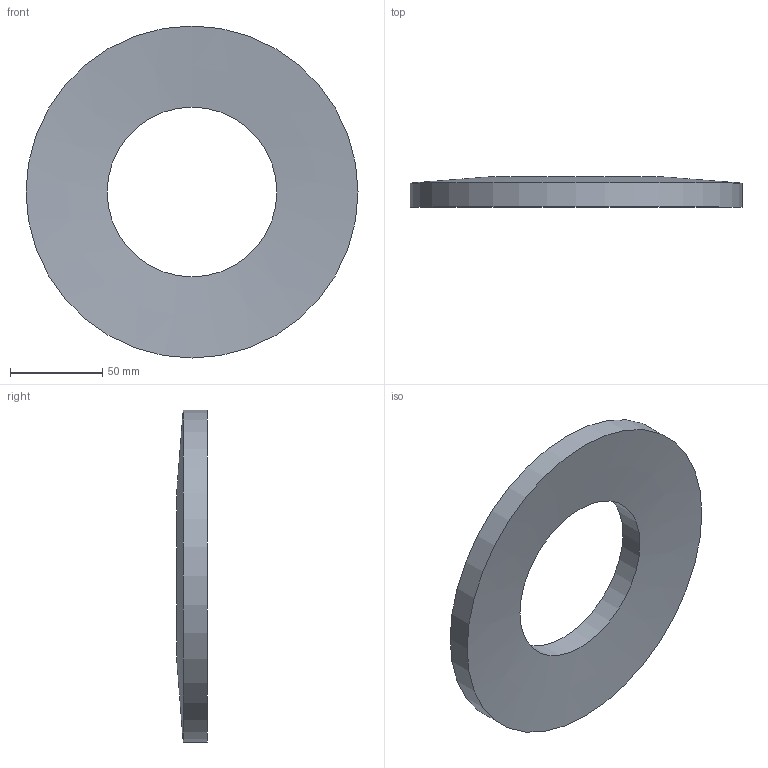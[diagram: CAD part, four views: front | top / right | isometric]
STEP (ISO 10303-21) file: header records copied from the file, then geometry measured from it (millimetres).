
FILE_DESCRIPTION(/* description */ ('237762N'),/* implementation_level */ '2;1');
FILE_NAME(/* name */ 'ST.1800.0920.1300.step',/* time_stamp */ '2026-09-18T10:36:00+02:00',/* author */ ('impex-ready.pl'),/* organization */ ('ST.1800.0920.1300'),/* preprocessor_version */ 'ST-DEVELOPER v20.1',/* originating_system */ 'Autodesk Inventor 2026',/* authorisation */ 'Ugiecie 0,75 h0 = 2.63');
FILE_SCHEMA (('AUTOMOTIVE_DESIGN { 1 0 10303 214 3 1 1 }'));
Length unit declared in the file: millimetre
Products named in the file (1): ST.1800.0920.1300
Bounding box: 180 x 16.5 x 180 mm (x, y, z)
Volume: 245145.2 mm3; surface area: 48857.6 mm2
Topology: 1 solids, 1 shells, 4 faces, 8 edges, 4 vertices
Faces by surface type: cone 2, cylinder 2
Full cylindrical faces by diameter (mm): 92 x1, 180 x1
Entity records: 151 total; most frequent: DIRECTION 22, CARTESIAN_POINT 17, ORIENTED_EDGE 16, AXIS2_PLACEMENT_3D 9, EDGE_CURVE 8, FACE_OUTER_BOUND 4, EDGE_LOOP 4, LINE 4
